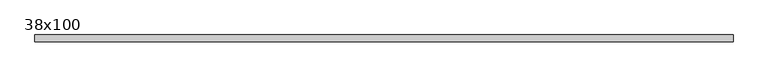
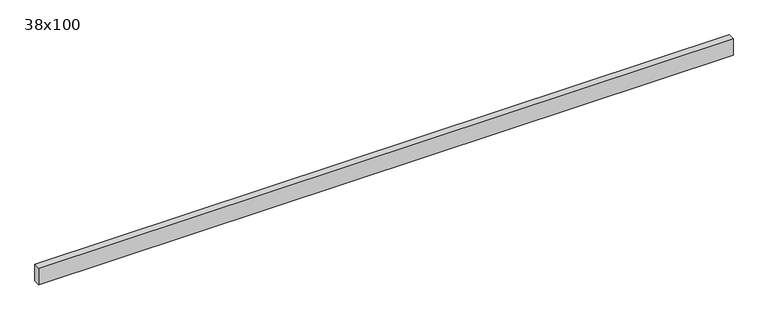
"""IFC4 building model written with IfcOpenShell, lengths in millimetres: beam geometry, Poutre - Bois de construction de dimensions courantes : 38x100."""

from ifc_helpers import new_model, si_unit, frame, origin, place, context, project, spatial, polyline, outline, extrude, source, transform, mapped, element, save


def beam_38x100_9317f0d2(model_context):
    return source(origin(), model_context, "Body", "SweptSolid", [
        extrude(outline(polyline([(1904.5, 19.05), (1904.5, -19.05), (-2064.5, -19.05), (-2064.5, 19.05), (1904.5, 19.05)])), frame((0.0, 0.0, -50.0), z_axis=(0.0, 0.0, 1.0), x_axis=(1.0, 0.0, 0.0)), (0.0, 0.0, 1.0), 100.0),
    ])


if __name__ == "__main__":
    model = new_model("IFC4")
    model_context = context("Model", 3, world=origin())
    ifc_project = project(units=[si_unit("LENGTHUNIT", "METRE", prefix="MILLI")], contexts=[model_context])
    site = spatial("IfcSite", under=ifc_project)
    building = spatial("IfcBuilding", under=site)
    placement = place(None, origin())
    beam_38x100_shape = beam_38x100_9317f0d2(model_context)
    element("IfcBeam", 1, ObjectType="Poutre - Bois de construction de dimensions courantes : 38x100", at=placement, inside=building, context=model_context, shape_type="MappedRepresentation", body=[
        mapped(beam_38x100_shape, transform((0.0, 0.0, 0.0), x_axis=(1.0, 0.0, 0.0), y_axis=(0.0, 1.0, 0.0), z_axis=(0.0, 0.0, 1.0))),
    ])
    save(model, "model.ifc")
